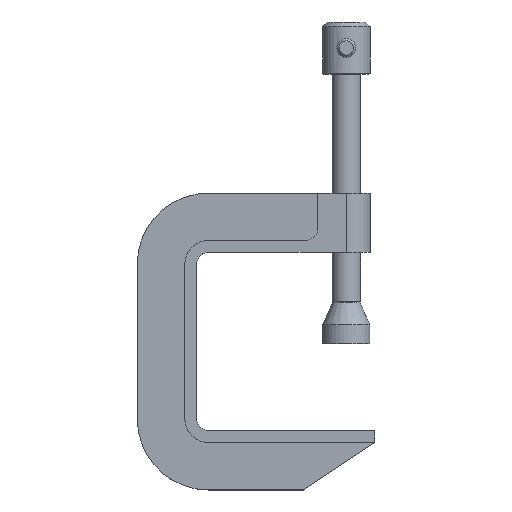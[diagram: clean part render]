
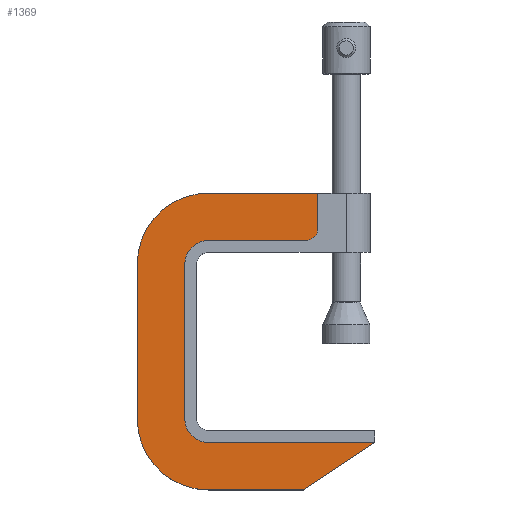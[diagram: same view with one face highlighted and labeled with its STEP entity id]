
A CAD part, top view. The second image highlights one B-rep face of the part: STEP entity #1369.
In plain terms, the highlighted planar face has unit normal (0, 0, 1).
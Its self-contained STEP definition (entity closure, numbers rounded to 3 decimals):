
#130=PLANE('',#1647);
#252=FACE_OUTER_BOUND('',#347,.T.);
#347=EDGE_LOOP('',(#1254,#1255,#1256,#1257,#1258,#1259,#1260,#1261,#1262,
#1263,#1264,#1265,#1266));
#383=LINE('',#2439,#472);
#389=LINE('',#2451,#478);
#397=LINE('',#2475,#486);
#405=LINE('',#2499,#494);
#413=LINE('',#2523,#502);
#430=LINE('',#2569,#519);
#432=LINE('',#2573,#521);
#435=LINE('',#2581,#524);
#472=VECTOR('',#1911,10.);
#478=VECTOR('',#1921,10.);
#486=VECTOR('',#1945,10.);
#494=VECTOR('',#1969,10.);
#502=VECTOR('',#1993,10.);
#519=VECTOR('',#2040,10.);
#521=VECTOR('',#2044,10.);
#524=VECTOR('',#2053,10.);
#576=CIRCLE('',#1606,5.);
#580=CIRCLE('',#1614,10.);
#584=CIRCLE('',#1622,10.);
#592=CIRCLE('',#1643,30.);
#593=CIRCLE('',#1646,30.);
#665=VERTEX_POINT('',#2436);
#666=VERTEX_POINT('',#2438);
#670=VERTEX_POINT('',#2450);
#674=VERTEX_POINT('',#2462);
#678=VERTEX_POINT('',#2474);
#682=VERTEX_POINT('',#2486);
#686=VERTEX_POINT('',#2498);
#690=VERTEX_POINT('',#2510);
#694=VERTEX_POINT('',#2522);
#708=VERTEX_POINT('',#2568);
#709=VERTEX_POINT('',#2572);
#710=VERTEX_POINT('',#2576);
#711=VERTEX_POINT('',#2580);
#823=EDGE_CURVE('',#666,#665,#383,.T.);
#829=EDGE_CURVE('',#670,#666,#389,.T.);
#835=EDGE_CURVE('',#674,#670,#576,.T.);
#841=EDGE_CURVE('',#678,#674,#397,.T.);
#847=EDGE_CURVE('',#682,#678,#580,.T.);
#853=EDGE_CURVE('',#686,#682,#405,.T.);
#859=EDGE_CURVE('',#690,#686,#584,.T.);
#865=EDGE_CURVE('',#694,#690,#413,.T.);
#888=EDGE_CURVE('',#708,#694,#430,.T.);
#890=EDGE_CURVE('',#709,#708,#432,.T.);
#892=EDGE_CURVE('',#710,#709,#592,.T.);
#894=EDGE_CURVE('',#711,#710,#435,.T.);
#896=EDGE_CURVE('',#665,#711,#593,.T.);
#1254=ORIENTED_EDGE('',*,*,#823,.T.);
#1255=ORIENTED_EDGE('',*,*,#896,.T.);
#1256=ORIENTED_EDGE('',*,*,#894,.T.);
#1257=ORIENTED_EDGE('',*,*,#892,.T.);
#1258=ORIENTED_EDGE('',*,*,#890,.T.);
#1259=ORIENTED_EDGE('',*,*,#888,.T.);
#1260=ORIENTED_EDGE('',*,*,#865,.T.);
#1261=ORIENTED_EDGE('',*,*,#859,.T.);
#1262=ORIENTED_EDGE('',*,*,#853,.T.);
#1263=ORIENTED_EDGE('',*,*,#847,.T.);
#1264=ORIENTED_EDGE('',*,*,#841,.T.);
#1265=ORIENTED_EDGE('',*,*,#835,.T.);
#1266=ORIENTED_EDGE('',*,*,#829,.T.);
#1369=ADVANCED_FACE('',(#252),#130,.T.);
#1606=AXIS2_PLACEMENT_3D('',#2463,#1933,#1934);
#1614=AXIS2_PLACEMENT_3D('',#2487,#1957,#1958);
#1622=AXIS2_PLACEMENT_3D('',#2511,#1981,#1982);
#1643=AXIS2_PLACEMENT_3D('',#2577,#2048,#2049);
#1646=AXIS2_PLACEMENT_3D('',#2584,#2057,#2058);
#1647=AXIS2_PLACEMENT_3D('',#2585,#2059,#2060);
#1911=DIRECTION('',(0.,-1.,0.));
#1921=DIRECTION('',(-1.,0.,0.));
#1933=DIRECTION('center_axis',(0.,0.,1.));
#1934=DIRECTION('ref_axis',(1.,0.,0.));
#1945=DIRECTION('',(0.,1.,0.));
#1957=DIRECTION('center_axis',(0.,0.,-1.));
#1958=DIRECTION('ref_axis',(1.,0.,0.));
#1969=DIRECTION('',(-1.,0.,0.));
#1981=DIRECTION('center_axis',(0.,0.,-1.));
#1982=DIRECTION('ref_axis',(0.,1.,0.));
#1993=DIRECTION('',(0.,-1.,0.));
#2040=DIRECTION('',(-0.555,0.832,0.));
#2044=DIRECTION('',(0.,1.,0.));
#2048=DIRECTION('center_axis',(0.,0.,1.));
#2049=DIRECTION('ref_axis',(0.,-1.,0.));
#2053=DIRECTION('',(1.,0.,0.));
#2057=DIRECTION('center_axis',(0.,0.,1.));
#2058=DIRECTION('ref_axis',(-1.,0.,0.));
#2059=DIRECTION('center_axis',(0.,0.,1.));
#2060=DIRECTION('ref_axis',(1.,0.,0.));
#2436=CARTESIAN_POINT('',(0.,30.,4.));
#2438=CARTESIAN_POINT('',(0.,76.,4.));
#2439=CARTESIAN_POINT('',(0.,98.,4.));
#2450=CARTESIAN_POINT('',(15.,76.,4.));
#2451=CARTESIAN_POINT('',(15.,76.,4.));
#2462=CARTESIAN_POINT('',(20.,71.,4.));
#2463=CARTESIAN_POINT('Origin',(15.,71.,4.));
#2474=CARTESIAN_POINT('',(20.,30.,4.));
#2475=CARTESIAN_POINT('',(20.,30.,4.));
#2486=CARTESIAN_POINT('',(30.,20.,4.));
#2487=CARTESIAN_POINT('Origin',(30.,30.,4.));
#2498=CARTESIAN_POINT('',(95.,20.,4.));
#2499=CARTESIAN_POINT('',(95.,20.,4.));
#2510=CARTESIAN_POINT('',(105.,30.,4.));
#2511=CARTESIAN_POINT('Origin',(95.,30.,4.));
#2522=CARTESIAN_POINT('',(105.,100.,4.));
#2523=CARTESIAN_POINT('',(105.,100.,4.));
#2568=CARTESIAN_POINT('',(125.,70.,4.));
#2569=CARTESIAN_POINT('',(125.,70.,4.));
#2572=CARTESIAN_POINT('',(125.,30.,4.));
#2573=CARTESIAN_POINT('',(125.,30.,4.));
#2576=CARTESIAN_POINT('',(95.,0.,4.));
#2577=CARTESIAN_POINT('Origin',(95.,30.,4.));
#2580=CARTESIAN_POINT('',(30.,0.,4.));
#2581=CARTESIAN_POINT('',(30.,0.,4.));
#2584=CARTESIAN_POINT('Origin',(30.,30.,4.));
#2585=CARTESIAN_POINT('Origin',(65.981,38.327,4.));
